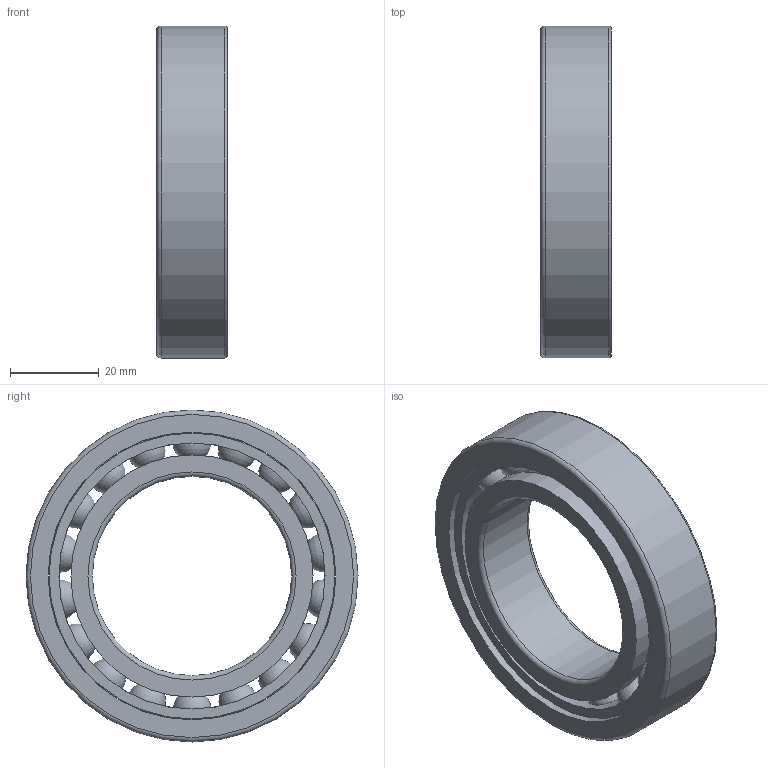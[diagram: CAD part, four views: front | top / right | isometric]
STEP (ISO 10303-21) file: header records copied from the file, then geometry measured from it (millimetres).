
FILE_DESCRIPTION(/* description */ (''),/* implementation_level */ '2;1');
FILE_NAME(/* name */ 'S_6009_TA.step',/* time_stamp */ '2013-03-06T14:43:30+01:00',/* author */ ('Marian'),/* organization */ ('GMN'),/* preprocessor_version */ 'ST-DEVELOPER v11',/* originating_system */ 'SIEMENS UGS NX 6.0',/* authorisation */ '');
FILE_SCHEMA (('CONFIG_CONTROL_DESIGN'));
Length unit declared in the file: millimetre
Products named in the file (1): S_6009_TA
Bounding box: 16 x 75 x 75 mm (x, y, z)
Volume: 33549.9 mm3; surface area: 24653.2 mm2
Topology: 21 solids, 21 shells, 56 faces, 146 edges, 94 vertices
Faces by surface type: cylinder 25, sphere 18, torus 6, plane 6, cone 1
Full cylindrical faces by diameter (mm): 8.931 x18, 45 x1, 54.7 x2, 60.111 x1, 64.6 x1, 65 x1, 75 x1
Entity records: 1830 total; most frequent: CARTESIAN_POINT 799, DIRECTION 154, FACE_BOUND 130, EDGE_LOOP 112, ORIENTED_EDGE 112, AXIS2_PLACEMENT_3D 77, VERTEX_POINT 74, EDGE_CURVE 56
